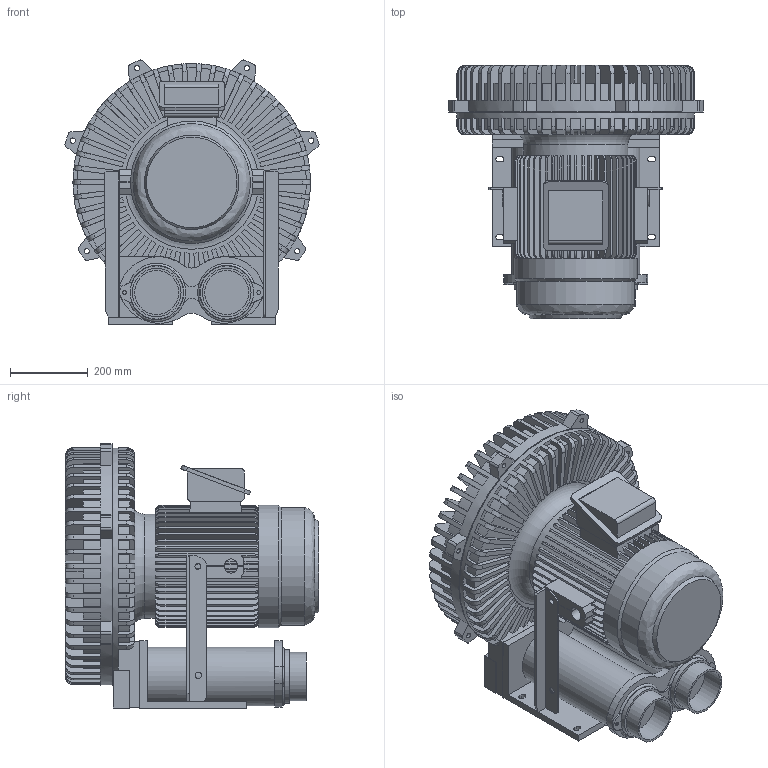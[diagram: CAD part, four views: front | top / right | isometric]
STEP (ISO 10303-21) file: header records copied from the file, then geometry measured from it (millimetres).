
FILE_DESCRIPTION(/* description */ ('Unknown'),/* implementation_level */ '2;1');
FILE_NAME(/* name */ '20201125 RB-20',/* time_stamp */ '2020-11-30T00:30:54+08:00',/* author */ ('å¤§èºè¨­è¨æéå¬å¸'),/* organization */ ('Unknown'),/* preprocessor_version */ 'ST-DEVELOPER v16.7',/* originating_system */ 'DEX',/* authorisation */ $);
FILE_SCHEMA (('AUTOMOTIVE_DESIGN {1 0 10303 214 3 1 1}'));
Length unit declared in the file: millimetre
Products named in the file (1): 20201125 RB-20
Bounding box: 652.99 x 650 x 678.29 mm (x, y, z)
Volume: 92586756.2 mm3; surface area: 3697641.3 mm2
Topology: 1 solids, 1 shells, 1404 faces, 4035 edges, 2678 vertices
Faces by surface type: plane 886, cylinder 413, torus 95, cone 5, bspline 5
Full cylindrical faces by diameter (mm): 10 x2, 13.367 x6, 14.992 x2, 16.288 x2, 88.334 x1, 113 x2, 125 x2, 137 x2, 268 x1, 301.885 x1, 315 x1, 610 x1
Entity records: 47931 total; most frequent: CARTESIAN_POINT 10335, ORIENTED_EDGE 7996, DIRECTION 7870, EDGE_CURVE 3998, AXIS2_PLACEMENT_3D 2690, VERTEX_POINT 2672, LINE 2490, VECTOR 2490
